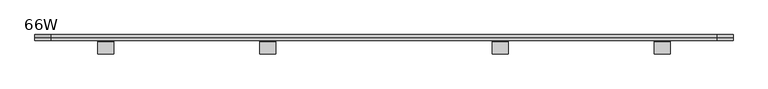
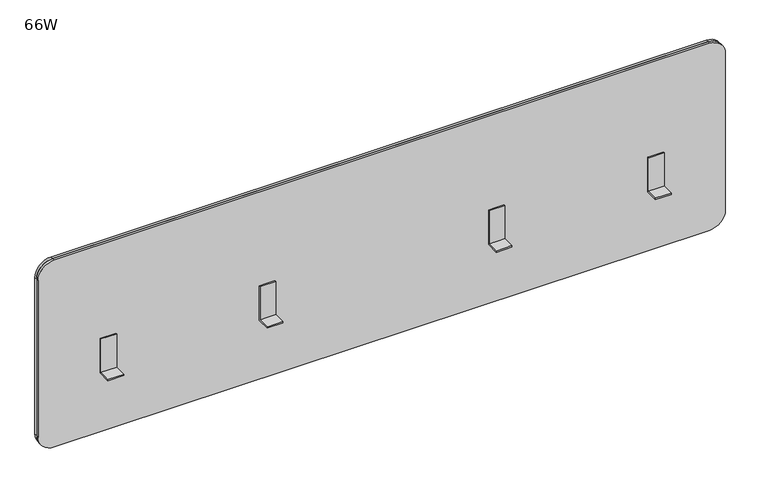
"""IFC4 building model written with IfcOpenShell, lengths in millimetres: furniture geometry, Steelcase Turnstone - Bivi - Screen - Straight : 66W."""

from ifc_helpers import new_model, si_unit, point, frame, frame_2d, origin, place, context, project, spatial, polyline, circle_curve, trimmed, segment, composite_curve, outline, extrude, source, transform, mapped, element, save


def furniture_66w_8efaf1e2(model_context):
    return source(origin(), model_context, "Body", "SweptSolid", [
        extrude(outline(polyline([(-100.6456009, 700.9734272), (-100.6456009, 787.0495535), (-97.6872108, 787.0495535), (-97.6872108, 697.3921394), (-130.205922, 697.3921394), (-130.205922, 700.9734272), (-100.6456009, 700.9734272)])), frame((539.5038388, 0.0, 0.0), z_axis=(1.0, 0.0, 0.0), x_axis=(0.0, 1.0, 0.0)), (0.0, 0.0, 1.0), 38.2069702),
        extrude(outline(polyline([(-100.6456009, 700.9734272), (-100.6456009, 787.0495535), (-97.6872108, 787.0495535), (-97.6872108, 697.3921394), (-130.205922, 697.3921394), (-130.205922, 700.9734272), (-100.6456009, 700.9734272)])), frame((1098.689191, 0.0, 0.0), z_axis=(1.0, 0.0, 0.0), x_axis=(0.0, 1.0, 0.0)), (0.0, 0.0, 1.0), 38.2069702),
        extrude(outline(polyline([(-100.6456009, 700.9734272), (-100.6456009, 787.0495535), (-97.6872108, 787.0495535), (-97.6872108, 697.3921394), (-130.205922, 697.3921394), (-130.205922, 700.9734272), (-100.6456009, 700.9734272)])), frame((1486.8617872, 0.0, 0.0), z_axis=(1.0, 0.0, 0.0), x_axis=(0.0, 1.0, 0.0)), (0.0, 0.0, 1.0), 38.2069702),
        extrude(outline(polyline([(-100.6456009, 700.9734272), (-100.6456009, 787.0495535), (-97.6872108, 787.0495535), (-97.6872108, 697.3921394), (-130.205922, 697.3921394), (-130.205922, 700.9734272), (-100.6456009, 700.9734272)])), frame((151.3312426, 0.0, 0.0), z_axis=(1.0, 0.0, 0.0), x_axis=(0.0, 1.0, 0.0)), (0.0, 0.0, 1.0), 38.2069702),
        extrude(outline(composite_curve([segment(polyline([(1028.3412889, 1637.03), (1028.3412889, 39.4397467)]), True, "CONTINUOUS"), segment(trimmed(circle_curve(frame_2d((988.9015421, 39.4397467)), 39.4397467), [point((1028.3412889, 39.4397467))], [point((988.9015421, 0.0))], False, "CARTESIAN"), True, "CONTINUOUS"), segment(polyline([(988.9015421, 0.0), (585.1278182, 0.0)]), True, "CONTINUOUS"), segment(trimmed(circle_curve(frame_2d((585.1278182, 39.37)), 39.37), [point((585.1278182, 0.0))], [point((545.7578182, 39.37))], False, "CARTESIAN"), True, "CONTINUOUS"), segment(polyline([(545.7578182, 39.37), (545.7578182, 1637.03)]), True, "CONTINUOUS"), segment(trimmed(circle_curve(frame_2d((585.1278182, 1637.03)), 39.37), [point((545.7578182, 1637.03))], [point((585.1278182, 1676.4))], False, "CARTESIAN"), True, "CONTINUOUS"), segment(polyline([(585.1278182, 1676.4), (988.9712889, 1676.4)]), True, "CONTINUOUS"), segment(trimmed(circle_curve(frame_2d((988.9712889, 1637.03)), 39.37), [point((988.9712889, 1676.4))], [point((1028.3412889, 1637.03))], False, "CARTESIAN"), True, "CONTINUOUS")], self_intersect=False)), frame((0.0, -90.878476, 0.0), z_axis=(0.0, 1.0, 0.0), x_axis=(0.0, 0.0, 1.0)), (0.0, 0.0, 1.0), 6.8087348),
        extrude(outline(composite_curve([segment(polyline([(1028.3412889, 1637.03), (1028.3412889, 39.4397467)]), True, "CONTINUOUS"), segment(trimmed(circle_curve(frame_2d((988.9015421, 39.4397467)), 39.4397467), [point((1028.3412889, 39.4397467))], [point((988.9015421, 0.0))], False, "CARTESIAN"), True, "CONTINUOUS"), segment(polyline([(988.9015421, 0.0), (585.1278182, 0.0)]), True, "CONTINUOUS"), segment(trimmed(circle_curve(frame_2d((585.1278182, 39.37)), 39.37), [point((585.1278182, 0.0))], [point((545.7578182, 39.37))], False, "CARTESIAN"), True, "CONTINUOUS"), segment(polyline([(545.7578182, 39.37), (545.7578182, 1637.03)]), True, "CONTINUOUS"), segment(trimmed(circle_curve(frame_2d((585.1278182, 1637.03)), 39.37), [point((545.7578182, 1637.03))], [point((585.1278182, 1676.4))], False, "CARTESIAN"), True, "CONTINUOUS"), segment(polyline([(585.1278182, 1676.4), (988.9712889, 1676.4)]), True, "CONTINUOUS"), segment(trimmed(circle_curve(frame_2d((988.9712889, 1637.03)), 39.37), [point((988.9712889, 1676.4))], [point((1028.3412889, 1637.03))], False, "CARTESIAN"), True, "CONTINUOUS")], self_intersect=False)), frame((0.0, -97.6872108, 0.0), z_axis=(0.0, 1.0, 0.0), x_axis=(0.0, 0.0, 1.0)), (0.0, 0.0, 1.0), 6.8087348),
    ])


if __name__ == "__main__":
    model = new_model("IFC4")
    model_context = context("Model", 3, world=origin())
    ifc_project = project(units=[si_unit("LENGTHUNIT", "METRE", prefix="MILLI")], contexts=[model_context])
    site = spatial("IfcSite", under=ifc_project)
    building = spatial("IfcBuilding", under=site)
    placement = place(None, origin())
    furniture_66w_shape = furniture_66w_8efaf1e2(model_context)
    element("IfcFurniture", 1, ObjectType="Steelcase Turnstone - Bivi - Screen - Straight : 66W", at=placement, inside=building, context=model_context, shape_type="MappedRepresentation", body=[
        mapped(furniture_66w_shape, transform((0.0, 0.0, 0.0), x_axis=(1.0, 0.0, 0.0), y_axis=(0.0, 1.0, 0.0), z_axis=(0.0, 0.0, 1.0))),
    ])
    save(model, "model.ifc")
